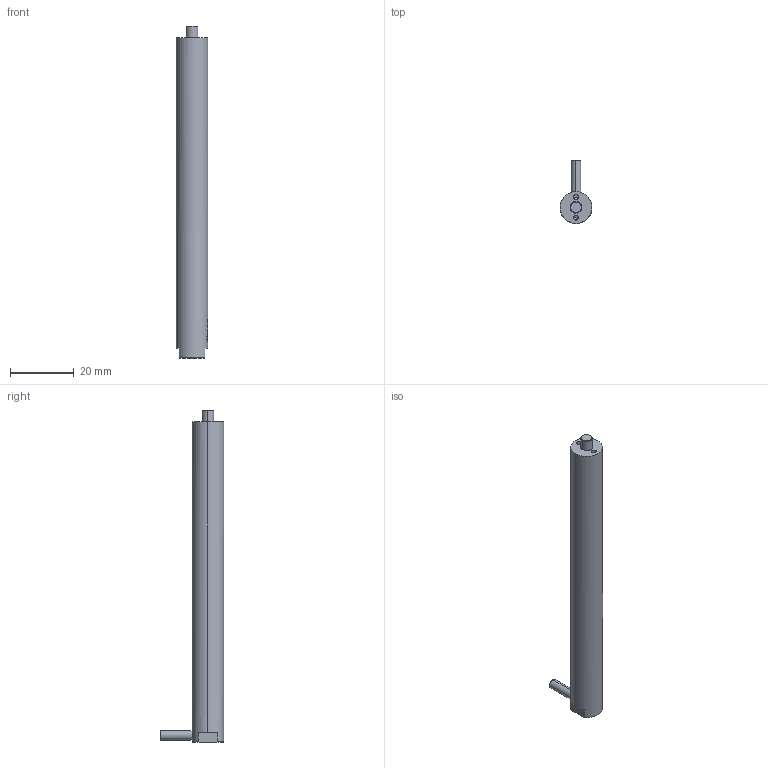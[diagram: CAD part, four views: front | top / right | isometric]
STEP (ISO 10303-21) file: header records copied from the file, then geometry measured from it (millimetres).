
FILE_DESCRIPTION (( 'STEP AP203' ), '1' );
FILE_NAME ('100VS10ƽͷ.STEP', '2024-12-10T06:33:36', ( 'daohangxitong.com' ), ( 'daohangxitong.com' ), 'SwSTEP 2.0', 'SolidWorks 2016', '' );
FILE_SCHEMA (( 'CONFIG_CONTROL_DESIGN' ));
Products named in the file (1): 100VS10ƽͷ
Bounding box: 10 x 20 x 104.3 mm (x, y, z)
Volume: 7955.2 mm3; surface area: 3517.8 mm2
Topology: 1 solids, 1 shells, 669 faces, 1899 edges, 1258 vertices
Faces by surface type: bspline 579, cylinder 48, plane 30, cone 12
Entity records: 38540 total; most frequent: CARTESIAN_POINT 26313, ORIENTED_EDGE 3786, EDGE_CURVE 1893, B_SPLINE_CURVE_WITH_KNOTS 1776, VERTEX_POINT 1258, EDGE_LOOP 701, ADVANCED_FACE 669, FACE_OUTER_BOUND 669
